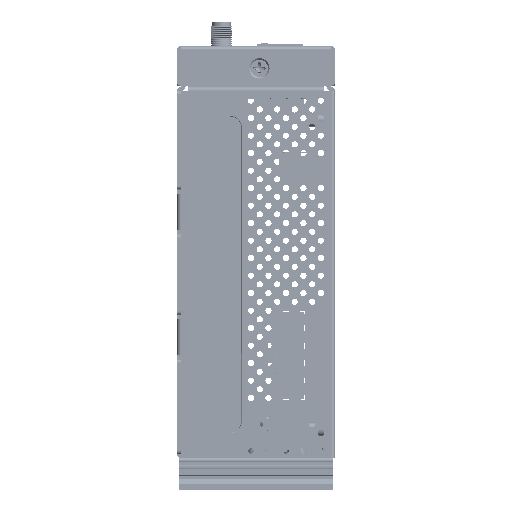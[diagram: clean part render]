
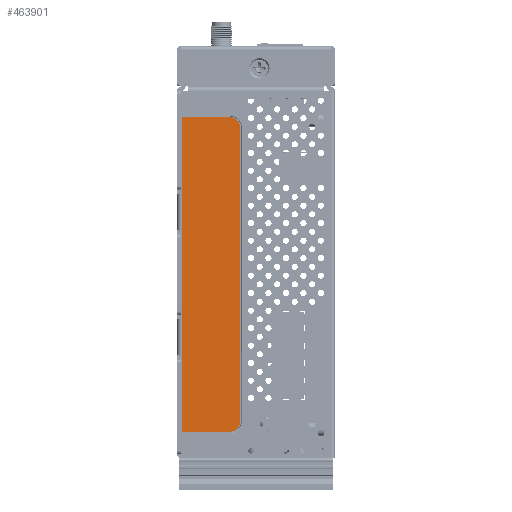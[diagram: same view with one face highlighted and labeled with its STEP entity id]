
A CAD part, front view. The second image highlights one B-rep face of the part: STEP entity #463901.
In plain terms, the highlighted planar face has unit normal (0, -1, 0).
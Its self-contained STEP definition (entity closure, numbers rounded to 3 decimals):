
#11151 = AXIS2_PLACEMENT_3D ( 'NONE', #360974, #183776, #368066 ) ;
#12514 = CARTESIAN_POINT ( 'NONE',  ( -37.05, -74.3, -52.25 ) ) ;
#27549 = CARTESIAN_POINT ( 'NONE',  ( -23.05, -74.3, 39.25 ) ) ;
#35776 = CARTESIAN_POINT ( 'NONE',  ( -23.05, -74.3, -52.25 ) ) ;
#41876 = CIRCLE ( 'NONE', #11151, 3. ) ;
#57302 = EDGE_CURVE ( 'NONE', #217722, #284411, #454564, .T. ) ;
#61497 = ORIENTED_EDGE ( 'NONE', *, *, #436230, .F. ) ;
#64498 = VECTOR ( 'NONE', #196659, 1000. ) ;
#67611 = DIRECTION ( 'NONE',  ( 0., 1., 0. ) ) ;
#77254 = ORIENTED_EDGE ( 'NONE', *, *, #107385, .F. ) ;
#103352 = DIRECTION ( 'NONE',  ( 0., 0., -1. ) ) ;
#105064 = CARTESIAN_POINT ( 'NONE',  ( -37.05, -74.3, 39.25 ) ) ;
#106696 = EDGE_CURVE ( 'NONE', #109527, #295248, #304432, .T. ) ;
#107385 = EDGE_CURVE ( 'NONE', #284411, #229304, #41876, .T. ) ;
#109527 = VERTEX_POINT ( 'NONE', #12514 ) ;
#120172 = CARTESIAN_POINT ( 'NONE',  ( -20.05, -74.3, 36.25 ) ) ;
#131567 = LINE ( 'NONE', #105064, #196578 ) ;
#139285 = FACE_OUTER_BOUND ( 'NONE', #309812, .T. ) ;
#139446 = CARTESIAN_POINT ( 'NONE',  ( -23.05, -74.3, 36.25 ) ) ;
#145929 = LINE ( 'NONE', #35776, #255373 ) ;
#183776 = DIRECTION ( 'NONE',  ( 0., 1., 0. ) ) ;
#189689 = EDGE_CURVE ( 'NONE', #229304, #109527, #145929, .T. ) ;
#192195 = CARTESIAN_POINT ( 'NONE',  ( -37.05, -74.3, 39.25 ) ) ;
#196578 = VECTOR ( 'NONE', #461861, 1000. ) ;
#196659 = DIRECTION ( 'NONE',  ( 0., 0., 1. ) ) ;
#199025 = CARTESIAN_POINT ( 'NONE',  ( -37.05, -74.3, -52.25 ) ) ;
#207094 = CIRCLE ( 'NONE', #306518, 3. ) ;
#213315 = CARTESIAN_POINT ( 'NONE',  ( -23.05, -74.3, -52.25 ) ) ;
#217722 = VERTEX_POINT ( 'NONE', #120172 ) ;
#229304 = VERTEX_POINT ( 'NONE', #213315 ) ;
#229700 = DIRECTION ( 'NONE',  ( 0., 0., -1. ) ) ;
#242472 = DIRECTION ( 'NONE',  ( 0., 0., 1. ) ) ;
#255373 = VECTOR ( 'NONE', #397307, 1000. ) ;
#265663 = ORIENTED_EDGE ( 'NONE', *, *, #106696, .F. ) ;
#280167 = CARTESIAN_POINT ( 'NONE',  ( -20.05, -74.3, -49.25 ) ) ;
#284411 = VERTEX_POINT ( 'NONE', #280167 ) ;
#285301 = PLANE ( 'NONE',  #457442 ) ;
#295248 = VERTEX_POINT ( 'NONE', #192195 ) ;
#304432 = LINE ( 'NONE', #199025, #64498 ) ;
#304901 = ORIENTED_EDGE ( 'NONE', *, *, #427615, .F. ) ;
#306518 = AXIS2_PLACEMENT_3D ( 'NONE', #139446, #67611, #242472 ) ;
#309812 = EDGE_LOOP ( 'NONE', ( #328112, #61497, #304901, #265663, #357858, #77254 ) ) ;
#323580 = DIRECTION ( 'NONE',  ( 0., -1., 0. ) ) ;
#328112 = ORIENTED_EDGE ( 'NONE', *, *, #57302, .F. ) ;
#357858 = ORIENTED_EDGE ( 'NONE', *, *, #189689, .F. ) ;
#360974 = CARTESIAN_POINT ( 'NONE',  ( -23.05, -74.3, -49.25 ) ) ;
#368066 = DIRECTION ( 'NONE',  ( 1., 0., 0. ) ) ;
#387016 = VERTEX_POINT ( 'NONE', #27549 ) ;
#397307 = DIRECTION ( 'NONE',  ( -1., 0., 0. ) ) ;
#427615 = EDGE_CURVE ( 'NONE', #295248, #387016, #131567, .T. ) ;
#431281 = CARTESIAN_POINT ( 'NONE',  ( -28.5, -74.3, -6.5 ) ) ;
#436230 = EDGE_CURVE ( 'NONE', #387016, #217722, #207094, .T. ) ;
#444436 = VECTOR ( 'NONE', #229700, 1000. ) ;
#449857 = CARTESIAN_POINT ( 'NONE',  ( -20.05, -74.3, 36.25 ) ) ;
#454564 = LINE ( 'NONE', #449857, #444436 ) ;
#457442 = AXIS2_PLACEMENT_3D ( 'NONE', #431281, #323580, #103352 ) ;
#461861 = DIRECTION ( 'NONE',  ( 1., 0., 0. ) ) ;
#463901 = ADVANCED_FACE ( 'NONE', ( #139285 ), #285301, .T. ) ;
